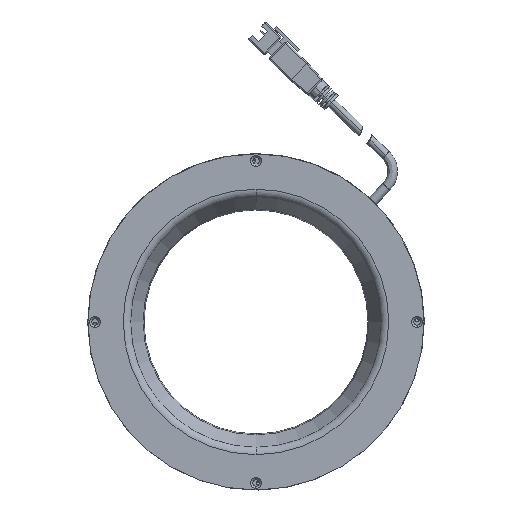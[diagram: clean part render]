
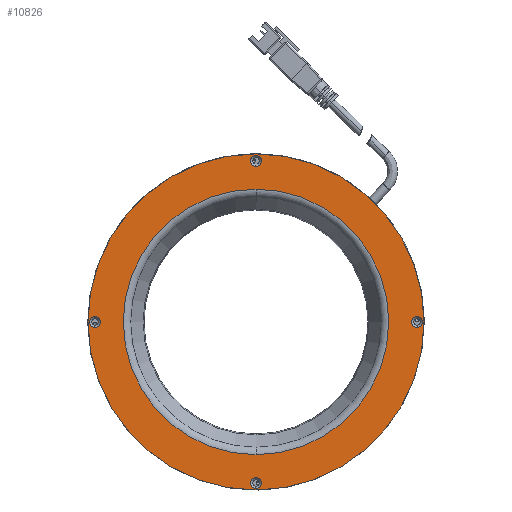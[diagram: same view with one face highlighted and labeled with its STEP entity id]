
A CAD part, front view. The second image highlights one B-rep face of the part: STEP entity #10826.
In plain terms, the highlighted planar face has unit normal (0, -1, 0).
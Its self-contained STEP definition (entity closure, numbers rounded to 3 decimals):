
#139 = CARTESIAN_POINT ( 'NONE',  ( 57.5, 0., 0. ) ) ;
#168 = EDGE_CURVE ( 'NONE', #12492, #770, #7222, .T. ) ;
#252 = VERTEX_POINT ( 'NONE', #8249 ) ;
#416 = CARTESIAN_POINT ( 'NONE',  ( 0., 0., -47.381 ) ) ;
#731 = EDGE_CURVE ( 'NONE', #12401, #8757, #827, .T. ) ;
#737 = CARTESIAN_POINT ( 'NONE',  ( -57.5, 0., 0. ) ) ;
#770 = VERTEX_POINT ( 'NONE', #5211 ) ;
#793 = CARTESIAN_POINT ( 'NONE',  ( 57.5, 0., -2. ) ) ;
#827 = CIRCLE ( 'NONE', #6358, 2. ) ;
#848 = CARTESIAN_POINT ( 'NONE',  ( 57.5, 0., 0. ) ) ;
#1070 = CARTESIAN_POINT ( 'NONE',  ( -57.5, 0., 0. ) ) ;
#1090 = AXIS2_PLACEMENT_3D ( 'NONE', #8234, #11208, #2103 ) ;
#1133 = DIRECTION ( 'NONE',  ( 0., -1., 0. ) ) ;
#1182 = ORIENTED_EDGE ( 'NONE', *, *, #7299, .T. ) ;
#1244 = DIRECTION ( 'NONE',  ( 0., 0., -1. ) ) ;
#1319 = CIRCLE ( 'NONE', #7486, 2. ) ;
#1377 = DIRECTION ( 'NONE',  ( 0., -1., 0. ) ) ;
#1483 = DIRECTION ( 'NONE',  ( 0., -1., 0. ) ) ;
#1591 = DIRECTION ( 'NONE',  ( 0., 0., -1. ) ) ;
#1614 = CARTESIAN_POINT ( 'NONE',  ( -60., 0., 0. ) ) ;
#1719 = AXIS2_PLACEMENT_3D ( 'NONE', #7768, #8869, #2634 ) ;
#1720 = EDGE_CURVE ( 'NONE', #9897, #8522, #8843, .T. ) ;
#1803 = FACE_BOUND ( 'NONE', #13028, .T. ) ;
#2103 = DIRECTION ( 'NONE',  ( 0., 0., -1. ) ) ;
#2188 = DIRECTION ( 'NONE',  ( 0., -1., 0. ) ) ;
#2196 = AXIS2_PLACEMENT_3D ( 'NONE', #139, #2188, #6177 ) ;
#2415 = CARTESIAN_POINT ( 'NONE',  ( 0., 0., -60. ) ) ;
#2437 = CARTESIAN_POINT ( 'NONE',  ( 0., 0., 0. ) ) ;
#2548 = DIRECTION ( 'NONE',  ( 0., 0., -1. ) ) ;
#2556 = AXIS2_PLACEMENT_3D ( 'NONE', #10227, #1133, #7339 ) ;
#2617 = CIRCLE ( 'NONE', #3515, 2. ) ;
#2634 = DIRECTION ( 'NONE',  ( 0., 0., -1. ) ) ;
#2759 = ORIENTED_EDGE ( 'NONE', *, *, #8552, .F. ) ;
#2777 = CARTESIAN_POINT ( 'NONE',  ( 0., 0., 47.381 ) ) ;
#2804 = FACE_BOUND ( 'NONE', #10182, .T. ) ;
#2918 = EDGE_CURVE ( 'NONE', #770, #12492, #10451, .T. ) ;
#3121 = AXIS2_PLACEMENT_3D ( 'NONE', #2437, #1377, #1244 ) ;
#3255 = AXIS2_PLACEMENT_3D ( 'NONE', #13011, #9092, #9892 ) ;
#3256 = VERTEX_POINT ( 'NONE', #793 ) ;
#3265 = DIRECTION ( 'NONE',  ( 0., 0., -1. ) ) ;
#3284 = EDGE_CURVE ( 'NONE', #8522, #9897, #8958, .T. ) ;
#3308 = CIRCLE ( 'NONE', #2196, 2. ) ;
#3515 = AXIS2_PLACEMENT_3D ( 'NONE', #11366, #7250, #3265 ) ;
#3835 = CIRCLE ( 'NONE', #2556, 2. ) ;
#3885 = AXIS2_PLACEMENT_3D ( 'NONE', #6684, #1483, #2548 ) ;
#4324 = CIRCLE ( 'NONE', #3885, 60. ) ;
#4471 = ORIENTED_EDGE ( 'NONE', *, *, #5607, .T. ) ;
#4557 = FACE_BOUND ( 'NONE', #6927, .T. ) ;
#4621 = EDGE_CURVE ( 'NONE', #6119, #8688, #7483, .T. ) ;
#4795 = DIRECTION ( 'NONE',  ( 0., -1., 0. ) ) ;
#5009 = CARTESIAN_POINT ( 'NONE',  ( -57.5, 0., -2. ) ) ;
#5073 = DIRECTION ( 'NONE',  ( 0., 0., -1. ) ) ;
#5168 = ORIENTED_EDGE ( 'NONE', *, *, #5249, .F. ) ;
#5211 = CARTESIAN_POINT ( 'NONE',  ( -57.5, 0., 2. ) ) ;
#5249 = EDGE_CURVE ( 'NONE', #8757, #12401, #3835, .T. ) ;
#5311 = ORIENTED_EDGE ( 'NONE', *, *, #2918, .F. ) ;
#5348 = CIRCLE ( 'NONE', #1090, 60. ) ;
#5607 = EDGE_CURVE ( 'NONE', #6859, #12101, #5348, .T. ) ;
#5797 = CARTESIAN_POINT ( 'NONE',  ( 0., 0., -59.5 ) ) ;
#6119 = VERTEX_POINT ( 'NONE', #8546 ) ;
#6177 = DIRECTION ( 'NONE',  ( 0., 0., -1. ) ) ;
#6358 = AXIS2_PLACEMENT_3D ( 'NONE', #10237, #11169, #7413 ) ;
#6602 = FACE_BOUND ( 'NONE', #8656, .T. ) ;
#6684 = CARTESIAN_POINT ( 'NONE',  ( 0., 0., 0. ) ) ;
#6837 = AXIS2_PLACEMENT_3D ( 'NONE', #1070, #8055, #5073 ) ;
#6859 = VERTEX_POINT ( 'NONE', #12343 ) ;
#6860 = DIRECTION ( 'NONE',  ( 0., 0., 1. ) ) ;
#6927 = EDGE_LOOP ( 'NONE', ( #8391, #2759 ) ) ;
#7222 = CIRCLE ( 'NONE', #7853, 2. ) ;
#7250 = DIRECTION ( 'NONE',  ( 0., -1., 0. ) ) ;
#7299 = EDGE_CURVE ( 'NONE', #12101, #6859, #4324, .T. ) ;
#7339 = DIRECTION ( 'NONE',  ( 0., 0., -1. ) ) ;
#7413 = DIRECTION ( 'NONE',  ( 0., 0., -1. ) ) ;
#7483 = CIRCLE ( 'NONE', #1719, 2. ) ;
#7486 = AXIS2_PLACEMENT_3D ( 'NONE', #848, #8952, #1591 ) ;
#7749 = FACE_OUTER_BOUND ( 'NONE', #12991, .T. ) ;
#7768 = CARTESIAN_POINT ( 'NONE',  ( 0., 0., 57.5 ) ) ;
#7853 = AXIS2_PLACEMENT_3D ( 'NONE', #737, #4795, #12871 ) ;
#8055 = DIRECTION ( 'NONE',  ( 0., -1., 0. ) ) ;
#8234 = CARTESIAN_POINT ( 'NONE',  ( 0., 0., 0. ) ) ;
#8240 = CARTESIAN_POINT ( 'NONE',  ( 0., 0., 55.5 ) ) ;
#8249 = CARTESIAN_POINT ( 'NONE',  ( 57.5, 0., 2. ) ) ;
#8391 = ORIENTED_EDGE ( 'NONE', *, *, #11447, .F. ) ;
#8486 = EDGE_LOOP ( 'NONE', ( #11866, #11484 ) ) ;
#8496 = CARTESIAN_POINT ( 'NONE',  ( 0., 0., -55.5 ) ) ;
#8522 = VERTEX_POINT ( 'NONE', #2777 ) ;
#8546 = CARTESIAN_POINT ( 'NONE',  ( 0., 0., 59.5 ) ) ;
#8552 = EDGE_CURVE ( 'NONE', #252, #3256, #1319, .T. ) ;
#8656 = EDGE_LOOP ( 'NONE', ( #8727, #10289 ) ) ;
#8688 = VERTEX_POINT ( 'NONE', #8240 ) ;
#8727 = ORIENTED_EDGE ( 'NONE', *, *, #11400, .F. ) ;
#8757 = VERTEX_POINT ( 'NONE', #8496 ) ;
#8843 = CIRCLE ( 'NONE', #3121, 47.381 ) ;
#8869 = DIRECTION ( 'NONE',  ( 0., -1., 0. ) ) ;
#8952 = DIRECTION ( 'NONE',  ( 0., -1., 0. ) ) ;
#8958 = CIRCLE ( 'NONE', #3255, 47.381 ) ;
#9092 = DIRECTION ( 'NONE',  ( 0., -1., 0. ) ) ;
#9135 = ORIENTED_EDGE ( 'NONE', *, *, #168, .F. ) ;
#9713 = ORIENTED_EDGE ( 'NONE', *, *, #731, .F. ) ;
#9714 = PLANE ( 'NONE',  #11121 ) ;
#9892 = DIRECTION ( 'NONE',  ( 0., 0., -1. ) ) ;
#9897 = VERTEX_POINT ( 'NONE', #416 ) ;
#10182 = EDGE_LOOP ( 'NONE', ( #9135, #5311 ) ) ;
#10227 = CARTESIAN_POINT ( 'NONE',  ( 0., 0., -57.5 ) ) ;
#10237 = CARTESIAN_POINT ( 'NONE',  ( 0., 0., -57.5 ) ) ;
#10289 = ORIENTED_EDGE ( 'NONE', *, *, #4621, .F. ) ;
#10451 = CIRCLE ( 'NONE', #6837, 2. ) ;
#10721 = FACE_BOUND ( 'NONE', #8486, .T. ) ;
#10826 = ADVANCED_FACE ( 'NONE', ( #4557, #1803, #2804, #6602, #10721, #7749 ), #9714, .F. ) ;
#11121 = AXIS2_PLACEMENT_3D ( 'NONE', #1614, #12828, #6860 ) ;
#11169 = DIRECTION ( 'NONE',  ( 0., -1., 0. ) ) ;
#11208 = DIRECTION ( 'NONE',  ( 0., -1., 0. ) ) ;
#11366 = CARTESIAN_POINT ( 'NONE',  ( 0., 0., 57.5 ) ) ;
#11400 = EDGE_CURVE ( 'NONE', #8688, #6119, #2617, .T. ) ;
#11447 = EDGE_CURVE ( 'NONE', #3256, #252, #3308, .T. ) ;
#11484 = ORIENTED_EDGE ( 'NONE', *, *, #3284, .F. ) ;
#11866 = ORIENTED_EDGE ( 'NONE', *, *, #1720, .F. ) ;
#12101 = VERTEX_POINT ( 'NONE', #2415 ) ;
#12343 = CARTESIAN_POINT ( 'NONE',  ( 0., 0., 60. ) ) ;
#12401 = VERTEX_POINT ( 'NONE', #5797 ) ;
#12492 = VERTEX_POINT ( 'NONE', #5009 ) ;
#12828 = DIRECTION ( 'NONE',  ( 0., 1., 0. ) ) ;
#12871 = DIRECTION ( 'NONE',  ( 0., 0., -1. ) ) ;
#12991 = EDGE_LOOP ( 'NONE', ( #1182, #4471 ) ) ;
#13011 = CARTESIAN_POINT ( 'NONE',  ( 0., 0., 0. ) ) ;
#13028 = EDGE_LOOP ( 'NONE', ( #9713, #5168 ) ) ;
